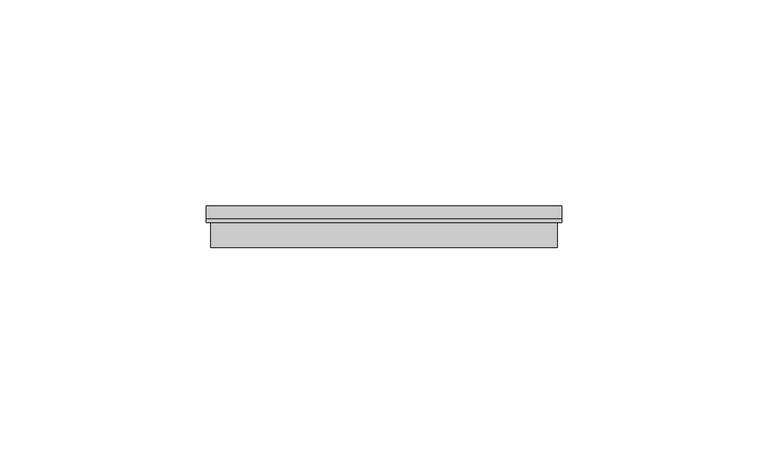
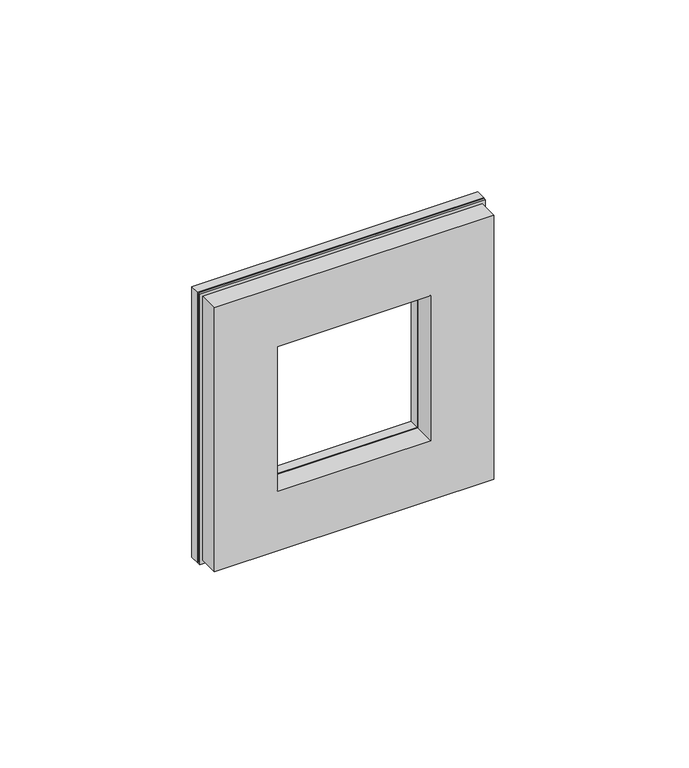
"""IFC4 building model written with IfcOpenShell, lengths in millimetres: proxy geometry, IEK_Skandy_Рамка : x1_SK-F21B."""

from ifc_helpers import new_model, si_unit, frame, origin, place, context, project, spatial, polyline, outline, extrude, faceted_brep, source, transform, mapped, element, save


def electrical_fixtures_36178a4c(model_context):
    return source(origin(), model_context, "Body", "SolidModel", [
        extrude(outline(polyline([(43.0, -43.0), (-43.0, -43.0), (-43.0, 43.0), (43.0, 43.0), (43.0, -43.0)]), holes=[polyline([(23.0, -23.0), (23.0, 23.0), (-23.0, 23.0), (-23.0, -23.0), (23.0, -23.0)])]), frame((0.0, 7.0, 0.0), z_axis=(0.0, 1.0, 0.0), x_axis=(0.0, 0.0, 1.0)), (0.0, 0.0, 1.0), 3.0),
        faceted_brep([(-23.0, 0.0, 23.0), (-23.0, 7.0, 23.0), (23.0, 7.0, 23.0), (23.0, 0.0, 23.0), (23.0, 7.0, -23.0), (23.0, 0.0, -23.0), (-23.0, 7.0, -23.0), (-23.0, 0.0, -23.0), (-43.0, 7.0, 43.0), (43.0, 7.0, 43.0), (43.0, 7.0, -43.0), (-43.0, 7.0, -43.0), (-42.0, 0.0, 42.0), (-42.0, 0.0, -42.0), (42.0, 0.0, -42.0), (42.0, 0.0, 42.0), (-42.0, 6.0, 42.0), (-42.0, 6.0, -42.0), (42.0, 6.0, -42.0), (42.0, 6.0, 42.0), (-43.0, 6.0, 43.0), (-43.0, 6.0, -43.0), (43.0, 6.0, -43.0), (43.0, 6.0, 43.0)], [[[0, 1, 2, 3]], [[3, 2, 4, 5]], [[5, 4, 6, 7]], [[1, 0, 7, 6]], [[8, 9, 10, 11], [2, 1, 6, 4]], [[12, 13, 14, 15], [0, 3, 5, 7]], [[13, 12, 16, 17]], [[14, 13, 17, 18]], [[15, 14, 18, 19]], [[12, 15, 19, 16]], [[20, 21, 22, 23], [17, 16, 19, 18]], [[21, 20, 8, 11]], [[22, 21, 11, 10]], [[23, 22, 10, 9]], [[20, 23, 9, 8]]]),
    ])


if __name__ == "__main__":
    model = new_model("IFC4")
    model_context = context("Model", 3, world=origin())
    ifc_project = project(units=[si_unit("LENGTHUNIT", "METRE", prefix="MILLI")], contexts=[model_context])
    site = spatial("IfcSite", under=ifc_project)
    building = spatial("IfcBuilding", under=site)
    placement = place(None, origin())
    electrical_fixtures_shape = electrical_fixtures_36178a4c(model_context)
    element("IfcBuildingElementProxy", 1, Name="IEK_Skandy_Рамка : x1_SK-F21B", ObjectType="IEK_Skandy_Рамка : x1_SK-F21B", at=placement, inside=building, context=model_context, shape_type="MappedRepresentation", body=[
        mapped(electrical_fixtures_shape, transform((0.0, 0.0, 0.0), x_axis=(1.0, 0.0, 0.0), y_axis=(0.0, 1.0, 0.0), z_axis=(0.0, 0.0, 1.0))),
    ])
    save(model, "model.ifc")
